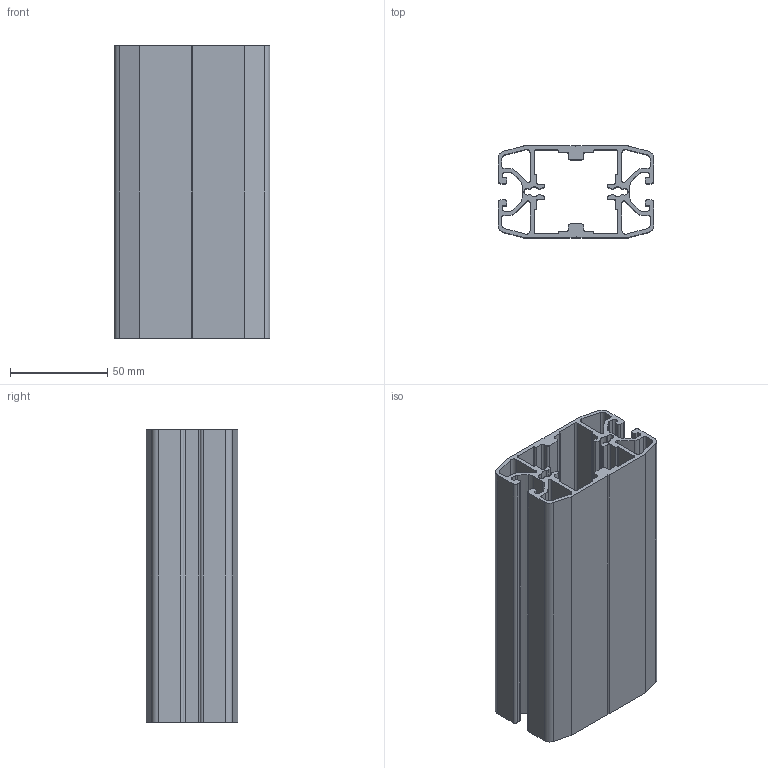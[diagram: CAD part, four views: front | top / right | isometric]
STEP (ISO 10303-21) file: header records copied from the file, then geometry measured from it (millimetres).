
FILE_DESCRIPTION((''),'2;1');
FILE_NAME('E:\catalogue and flyer\Profile catalogue 2015\profile-step file,31MAr16\PS8047-8.stp','2016-03-31T14:24:11',('h029'),(''),'Autodesk Inventor 11','Autodesk Inventor 11','');
FILE_SCHEMA(('AUTOMOTIVE_DESIGN { 1 0 10303 214 1 1 1 1 }'));
Length unit declared in the file: millimetre
Products named in the file (1): PS8047-8
Bounding box: 80 x 47 x 150 mm (x, y, z)
Volume: 144688.8 mm3; surface area: 120295.9 mm2
Topology: 1 solids, 1 shells, 216 faces, 642 edges, 428 vertices
Faces by surface type: cylinder 118, plane 98
Entity records: 7365 total; most frequent: DIRECTION 1312, CARTESIAN_POINT 1287, ORIENTED_EDGE 1284, EDGE_CURVE 642, AXIS2_PLACEMENT_3D 453, VERTEX_POINT 428, VECTOR 406, LINE 406
